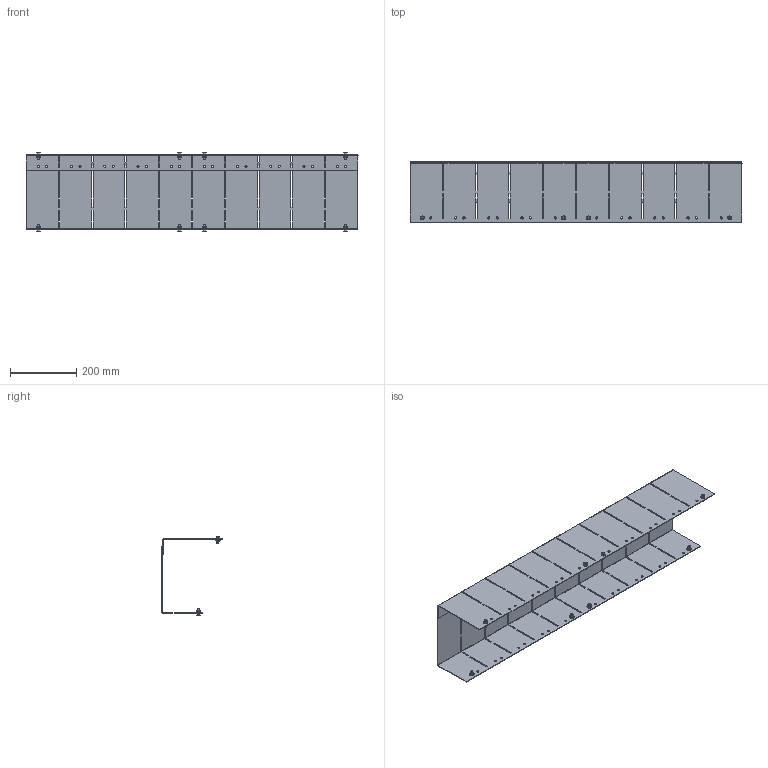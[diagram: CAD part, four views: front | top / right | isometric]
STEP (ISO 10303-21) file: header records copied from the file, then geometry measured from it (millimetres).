
FILE_DESCRIPTION(('CAx-IF Rec.Pracs.---Model Styling and Organization---1.2---2011-12-15','CAx-IF Rec.Pracs.---Geometric and Assembly Validation Properties---4.1---2014-06-16','CAx-IF Rec.Pracs.---PMI Polyline Presentation---2.0---2013-05-24'),'2;1');
FILE_NAME('R5BBLPH3P.stp','2021-05-06T03:14:42+03:00',(''),(''),'STEP Interface 4.4 by CT CoreTechnologie','3D_Evolution4.4 by CT CoreTechnologie','');
FILE_SCHEMA(('AUTOMOTIVE_DESIGN { 1 0 10303 214 1 1 1 1 }'));
Length unit declared in the file: millimetre
Products named in the file (6): R5BBLPH3P; M6x16 DIN 912 HX cl.4,8 Zinc_stright; M6 DIN 6923 cl.8,0 Zinc_straight; 6 DIN 125 A Zinc; RB.1303.00.00.0_-00; RB.1303.00.00.0_-01
Assembly tree (26 placements, depth 2):
  R5BBLPH3P
    M6x16 DIN 912 HX cl.4,8 Zinc_stright  x8
    M6 DIN 6923 cl.8,0 Zinc_straight  x8
    6 DIN 125 A Zinc  x8
    RB.1303.00.00.0_-00
    RB.1303.00.00.0_-01
Bounding box: 1000 x 181.25 x 239.2 mm (x, y, z)
Surface area: 1095613.3 mm2 (no closed solid volume)
Topology: 0 solids, 42 shells, 880 faces, 2232 edges, 1392 vertices
Faces by surface type: plane 456, cylinder 264, bspline 160
Entity records: 17123 total; most frequent: CARTESIAN_POINT 3168, ORIENTED_EDGE 2780, DIRECTION 2760, EDGE_CURVE 1390, VECTOR 950, LINE 950, AXIS2_PLACEMENT_3D 905, VERTEX_POINT 895
